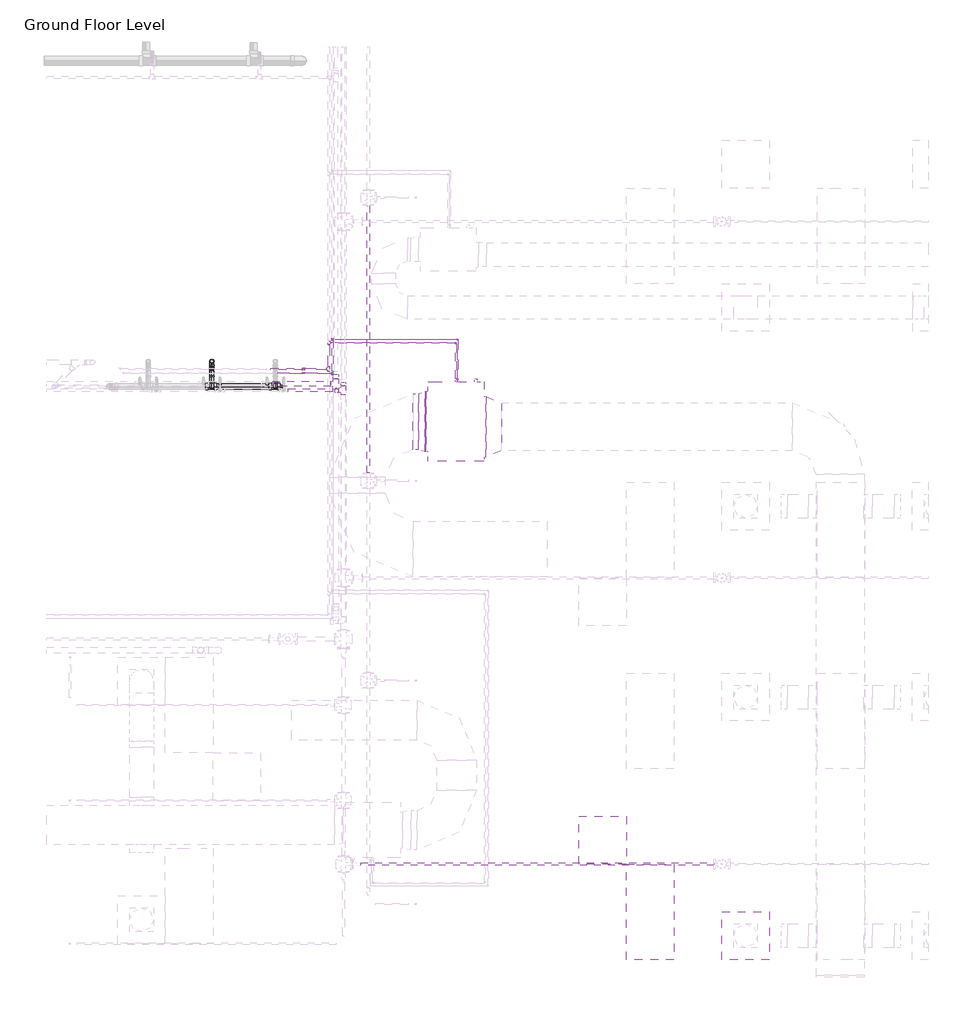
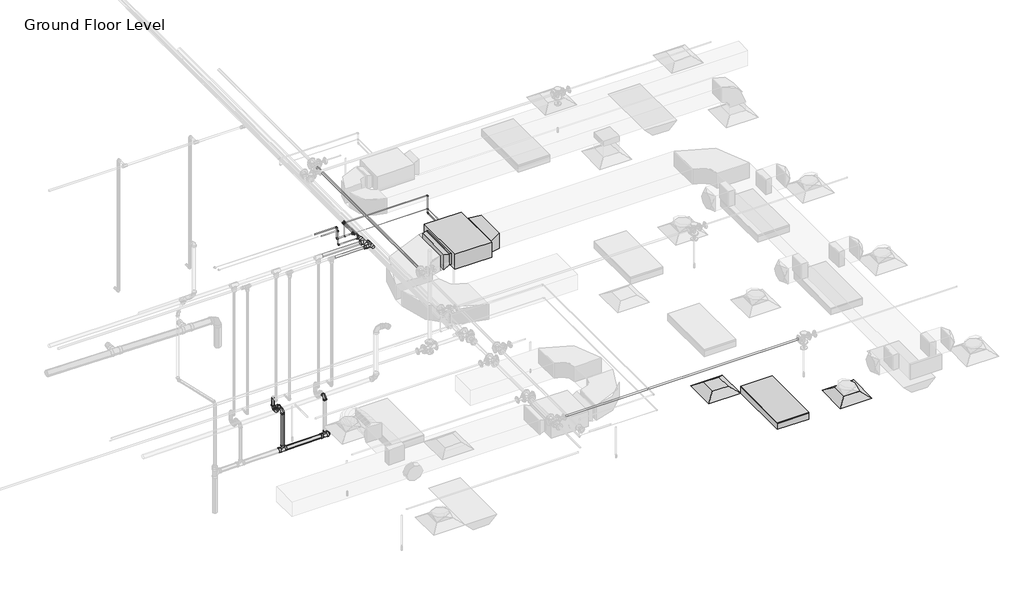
# One storey, part 17 of 66: 32 pipe fittings, 25 pipe segments, 2 air terminals, 2 duct fittings, 2 duct segments, 1 light fixture, 1 proxy.
"""IFC4 building model written with IfcOpenShell, lengths in millimetres."""

from ifc_helpers import new_model, si_unit, point, frame, frame_2d, origin, place, context, project, spatial, polyline, circle_curve, trimmed, segment, composite_curve, outline, extrude, transform, mapped, element, save
from ifc_brep_helpers import plane_surface, cylinder_surface, advanced_brep
from components import m_return_diffuser_600_x_600_face_300_x_300_connection_ff221211, fcu_daikin_iu_7e1df382, m_rectangular_transition_angle_45_degree_93a96896, m_rectangular_transition_angle_45_degree_f6cc18ae, m_troffer_light_parabolic_rectangular1_0600x1200mm_4_lamp_86473d4a, m_bend_pvc_sch_40_dwv_standard_1e7bdcc1, m_bend_pvc_sch_40_dwv_standard_776e50c4, m_bend_pvc_sch_40_dwv_standard_aab78995, m_elbow_generic_standard_a088f956, m_elbow_generic_standard_2a704253, m_elbow_generic_standard_73005802, m_elbow_generic_standard_bb5ffebe, m_plug_pvc_sch_40_dwv_standard_af737ab4, m_tee_generic_standard_5b2ed4d4, m_tee_generic_standard_cdc1cff5, m_tee_generic_standard_5078887e, m_tee_generic_standard_bbfc025c, m_tee_reducing_sanitary_pvc_sch_40_dwv_standard_21d2848c, m_transition_generic_standard_6dc712c0, m_transition_generic_standard_2351da66, m_transition_generic_standard_44e35838, m_transition_generic_standard_22c7c9f4, m_transition_generic_standard_2d362458, standard_cd25fed3, standard_5079833c, standard_bbae78af, standard_a995ec02, standard_77f9104c

model = new_model("IFC4")

# Units and contexts
model_context = context("Model", 3, world=origin())
ifc_project = project(units=[si_unit("LENGTHUNIT", "METRE", prefix="MILLI")], contexts=[model_context])

# Site, building, storey
site = spatial("IfcSite", under=ifc_project)
building = spatial("IfcBuilding", under=site)
storey = spatial("IfcBuildingStorey", under=building, Name="Ground Floor Level", Elevation=900.0)

# Air terminals
placement = place(None, origin())
m_return_diffuser_600_x_600_face_300_x_300_connection_shape = m_return_diffuser_600_x_600_face_300_x_300_connection_ff221211(model_context)
element("IfcAirTerminal", 1, ObjectType="M_Return Diffuser : 600 x 600 Face 300 x 300 Connection", at=placement, inside=storey, context=model_context, shape_type="MappedRepresentation", body=[
    mapped(m_return_diffuser_600_x_600_face_300_x_300_connection_shape, transform((8943.0482736, -38564.7846466, 3650.0), x_axis=(1.0, 0.0, 0.0), y_axis=(0.0, 1.0, 0.0), z_axis=(0.0, 0.0, 1.0))),
])
element("IfcAirTerminal", 2, ObjectType="M_Supply Diffuser : 600 x 600 Face 300 x 300 Connection", at=placement, inside=storey, context=model_context, shape_type="MappedRepresentation", body=[
    mapped(m_return_diffuser_600_x_600_face_300_x_300_connection_shape, transform((10742.7672395, -39764.7846466, 3650.0), x_axis=(1.0, 0.0, 0.0), y_axis=(0.0, 1.0, 0.0), z_axis=(0.0, 0.0, 1.0))),
])

# Proxy
fcu_daikin_iu_shape = fcu_daikin_iu_7e1df382(model_context)
element("IfcBuildingElementProxy", 3, Name="FCU-DAIKIN IU : 7.2kW, 230V/50Hz/1Ph", ObjectType="FCU-DAIKIN IU : 7.2kW, 230V/50Hz/1Ph", at=placement, inside=storey, context=model_context, shape_type="MappedRepresentation", body=[
    mapped(fcu_daikin_iu_shape, transform((7098.4644074, -33301.2726336, 3934.0875), x_axis=(0.0, 1.0, 0.0), y_axis=(-1.0, 0.0, 0.0), z_axis=(0.0, 0.0, 1.0))),
])

# Duct fittings
m_rectangular_transition_angle_45_degree_shape = m_rectangular_transition_angle_45_degree_93a96896(model_context)
element("IfcDuctFitting", 4, ObjectType="M_Rectangular Transition - Angle : 45 Degree", at=placement, inside=storey, context=model_context, shape_type="MappedRepresentation", body=[
    mapped(m_rectangular_transition_angle_45_degree_shape, transform((7473.8644074, -33364.7726336, 4100.0), x_axis=(1.0, 0.0, 0.0), y_axis=(0.0, 1.0, 0.0), z_axis=(0.0, 0.0, 1.0))),
])
m_rectangular_transition_angle_45_degree_2_shape = m_rectangular_transition_angle_45_degree_f6cc18ae(model_context)
element("IfcDuctFitting", 5, ObjectType="M_Rectangular Transition - Angle : 45 Degree", at=placement, inside=storey, context=model_context, shape_type="MappedRepresentation", body=[
    mapped(m_rectangular_transition_angle_45_degree_2_shape, transform((6711.4162578, -33301.2726336, 4075.2908943), x_axis=(-0.9999999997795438, 0.0, 2.0997916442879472e-05), y_axis=(0.0, -1.0, 0.0), z_axis=(2.0997916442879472e-05, 0.0, 0.9999999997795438))),
])

# Duct segments
element("IfcDuctSegment", 6, ObjectType="Radius Elbows / Taps", at=placement, inside=storey, context=model_context, shape_type="SweptSolid", body=[
    extrude(outline(polyline([(0.0, -761.875), (0.0, 0.0), (11.6481501, 0.0), (11.6481501, -761.875), (0.0, -761.875)])), frame((6711.3850343, -32920.3351336, 3968.1408988), z_axis=(0.00029140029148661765, 0.0, 0.9999999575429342), x_axis=(0.9999999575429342, 0.0, -0.00029140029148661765)), (0.0, 0.0, 1.0), 214.3),
])
element("IfcDuctSegment", 7, ObjectType="Radius Elbows / Taps", at=placement, inside=storey, context=model_context, shape_type="SweptSolid", body=[
    extrude(outline(polyline([(6557.7672394, -33651.2726336), (6557.7672394, -32951.2726336), (6625.7187526, -32951.2726336), (6625.7187526, -33651.2726336), (6557.7672394, -33651.2726336)])), frame((0.0, 0.0, 3882.4375), z_axis=(0.0, 0.0, 1.0), x_axis=(1.0, 0.0, 0.0)), (0.0, 0.0, 1.0), 300.0),
])

# Light fixture
m_troffer_light_parabolic_rectangular1_0600x1200mm_4_lamp_shape = m_troffer_light_parabolic_rectangular1_0600x1200mm_4_lamp_86473d4a(model_context)
element("IfcLightFixture", 8, ObjectType="M_Troffer Light - Parabolic Rectangular1 : 0600x1200mm(4 Lamp) - 277V 2", at=placement, inside=storey, context=model_context, shape_type="MappedRepresentation", body=[
    mapped(m_troffer_light_parabolic_rectangular1_0600x1200mm_4_lamp_shape, transform((9483.5823415, -39446.0811451, 3650.0), x_axis=(0.0, 1.0, 0.0), y_axis=(-1.0, 0.0, 0.0), z_axis=(0.0, 0.0, 1.0))),
])

# Pipe fittings
m_bend_pvc_sch_40_dwv_standard_shape = m_bend_pvc_sch_40_dwv_standard_1e7bdcc1(model_context)
element("IfcPipeFitting", 9, ObjectType="M_Bend - PVC - Sch 40 - DWV : Standard", at=placement, inside=storey, context=model_context, shape_type="MappedRepresentation", body=[
    mapped(m_bend_pvc_sch_40_dwv_standard_shape, transform((4026.7846789, -32541.2164355, 1350.0), x_axis=(0.0, 0.0, -1.0), y_axis=(0.0, -1.0, 0.0), z_axis=(-1.0, 0.0, 0.0))),
])
element("IfcPipeFitting", 10, ObjectType="M_Bend - PVC - Sch 40 - DWV : Standard", at=placement, inside=storey, context=model_context, shape_type="MappedRepresentation", body=[
    mapped(m_bend_pvc_sch_40_dwv_standard_shape, transform((4026.7846789, -32858.7119065, 1488.4250453), x_axis=(0.0, -0.9999500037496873, -0.009999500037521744), y_axis=(0.0, 0.009999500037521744, -0.9999500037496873), z_axis=(1.0, 0.0, 0.0))),
])
m_bend_pvc_sch_40_dwv_standard_2_shape = m_bend_pvc_sch_40_dwv_standard_776e50c4(model_context)
element("IfcPipeFitting", 11, ObjectType="M_Bend - PVC - Sch 40 - DWV : Standard", at=placement, inside=storey, context=model_context, shape_type="MappedRepresentation", body=[
    mapped(m_bend_pvc_sch_40_dwv_standard_2_shape, transform((4026.7846789, -32676.2164355, 1348.45), x_axis=(0.0, -0.9999500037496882, -0.009999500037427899), y_axis=(0.0, -0.009999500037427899, 0.9999500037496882), z_axis=(-1.0, 0.0, 0.0))),
])
element("IfcPipeFitting", 12, ObjectType="M_Bend - PVC - Sch 40 - DWV : Standard", at=placement, inside=storey, context=model_context, shape_type="MappedRepresentation", body=[
    mapped(m_bend_pvc_sch_40_dwv_standard_2_shape, transform((4026.7846789, -32676.2164355, 1490.0), x_axis=(0.0, 0.0, 1.0), y_axis=(0.0, -1.0, 0.0), z_axis=(1.0, 0.0, 0.0))),
])
m_bend_pvc_sch_40_dwv_standard_3_shape = m_bend_pvc_sch_40_dwv_standard_aab78995(model_context)
element("IfcPipeFitting", 13, ObjectType="M_Bend - PVC - Sch 40 - DWV : Standard", at=placement, inside=storey, context=model_context, shape_type="MappedRepresentation", body=[
    mapped(m_bend_pvc_sch_40_dwv_standard_3_shape, transform((4826.7846789, -32858.7119065, 1488.4250453), x_axis=(0.0, -0.999968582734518, -0.007926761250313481), y_axis=(0.0, 0.007926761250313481, -0.999968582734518), z_axis=(1.0, 0.0, 0.0))),
])
m_elbow_generic_standard_shape = m_elbow_generic_standard_a088f956(model_context)
element("IfcPipeFitting", 14, ObjectType="M_Elbow - Generic : Standard", at=placement, inside=storey, context=model_context, shape_type="MappedRepresentation", body=[
    mapped(m_elbow_generic_standard_shape, transform((7098.4644074, -32307.4513653, 4390.0), x_axis=(1.0, 0.0, 0.0), y_axis=(0.0, 0.0, -1.0), z_axis=(0.0, 1.0, 0.0))),
])
element("IfcPipeFitting", 15, ObjectType="M_Elbow - Generic : Standard", at=placement, inside=storey, context=model_context, shape_type="MappedRepresentation", body=[
    mapped(m_elbow_generic_standard_shape, transform((7098.4644074, -32307.4513653, 4034.0875), x_axis=(0.0, 0.0, -1.0), y_axis=(0.0, -1.0, 0.0), z_axis=(-1.0, 0.0, 0.0))),
])
m_elbow_generic_standard_2_shape = m_elbow_generic_standard_2a704253(model_context)
element("IfcPipeFitting", 16, ObjectType="M_Elbow - Generic : Standard", at=placement, inside=storey, context=model_context, shape_type="MappedRepresentation", body=[
    mapped(m_elbow_generic_standard_2_shape, transform((7123.4644074, -32264.9316535, 4084.8875), x_axis=(0.0, 1.0, 0.0), y_axis=(-0.9999999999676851, 0.0, 8.039269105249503e-06), z_axis=(8.039269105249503e-06, 0.0, 0.9999999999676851))),
])
element("IfcPipeFitting", 17, ObjectType="M_Elbow - Generic : Standard", at=placement, inside=storey, context=model_context, shape_type="MappedRepresentation", body=[
    mapped(m_elbow_generic_standard_2_shape, transform((5543.9904113, -32264.9316538, 4084.9001978), x_axis=(0.0, 0.0, -1.0), y_axis=(1.0, 0.0, 0.0), z_axis=(0.0, -1.0, 0.0))),
])
m_elbow_generic_standard_3_shape = m_elbow_generic_standard_73005802(model_context)
element("IfcPipeFitting", 18, ObjectType="M_Elbow - Generic : Standard", at=placement, inside=storey, context=model_context, shape_type="MappedRepresentation", body=[
    mapped(m_elbow_generic_standard_3_shape, transform((5183.4438829, -32638.716218, 4390.0), x_axis=(-1.0, 0.0, 0.0), y_axis=(0.0, 0.0, 1.0), z_axis=(0.0, 1.0, 0.0))),
])
element("IfcPipeFitting", 19, ObjectType="M_Elbow - Generic : Standard", at=placement, inside=storey, context=model_context, shape_type="MappedRepresentation", body=[
    mapped(m_elbow_generic_standard_3_shape, transform((5183.4438829, -32638.716218, 4621.4908765), x_axis=(0.0, 0.0, 1.0), y_axis=(-1.0, 0.0, 0.0), z_axis=(0.0, -1.0, 0.0))),
])
m_elbow_generic_standard_4_shape = m_elbow_generic_standard_bb5ffebe(model_context)
element("IfcPipeFitting", 20, ObjectType="M_Elbow - Generic : Standard", at=placement, inside=storey, context=model_context, shape_type="MappedRepresentation", body=[
    mapped(m_elbow_generic_standard_4_shape, transform((5176.1749541, -32691.5527522, 4591.0863665), x_axis=(0.0, 0.0, 1.0), y_axis=(-1.0, 0.0, 0.0), z_axis=(0.0, -1.0, 0.0))),
])
element("IfcPipeFitting", 21, ObjectType="M_Elbow - Generic : Standard", at=placement, inside=storey, context=model_context, shape_type="MappedRepresentation", body=[
    mapped(m_elbow_generic_standard_4_shape, transform((5543.9904113, -32691.5527522, 4300.0), x_axis=(0.0, 0.0, -1.0), y_axis=(-1.0, 0.0, 0.0), z_axis=(0.0, 1.0, 0.0))),
])
element("IfcPipeFitting", 22, ObjectType="M_Elbow - Generic : Standard", at=placement, inside=storey, context=model_context, shape_type="MappedRepresentation", body=[
    mapped(m_elbow_generic_standard_4_shape, transform((5176.1749541, -32691.5527522, 4300.0), x_axis=(0.0, 0.0, -1.0), y_axis=(1.0, 0.0, 0.0), z_axis=(0.0, -1.0, 0.0))),
])
m_plug_pvc_sch_40_dwv_standard_shape = m_plug_pvc_sch_40_dwv_standard_af737ab4(model_context)
element("IfcPipeFitting", 23, ObjectType="M_Plug - PVC - Sch 40 - DWV : Standard", at=placement, inside=storey, context=model_context, shape_type="MappedRepresentation", body=[
    mapped(m_plug_pvc_sch_40_dwv_standard_shape, transform((4886.2674481, -32858.7119065, 723.0545203), x_axis=(0.9999500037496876, 0.0, 0.009999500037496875), y_axis=(0.009999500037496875, 0.0, -0.9999500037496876), z_axis=(0.0, 1.0, 0.0))),
])
m_tee_generic_standard_shape = m_tee_generic_standard_5b2ed4d4(model_context)
element("IfcPipeFitting", 24, ObjectType="M_Tee - Generic : Standard", at=placement, inside=storey, context=model_context, shape_type="MappedRepresentation", body=[
    mapped(m_tee_generic_standard_shape, transform((5543.9904113, -32264.9316538, 4377.5), x_axis=(0.0, -1.0, 0.0), y_axis=(0.0, 0.0, 1.0), z_axis=(-1.0, 0.0, 0.0))),
])
m_tee_generic_standard_2_shape = m_tee_generic_standard_cdc1cff5(model_context)
element("IfcPipeFitting", 25, ObjectType="M_Tee - Generic : Standard", at=placement, inside=storey, context=model_context, shape_type="MappedRepresentation", body=[
    mapped(m_tee_generic_standard_2_shape, transform((5543.9904113, -32691.5527522, 4377.5), x_axis=(0.0, -1.0, 0.0), y_axis=(0.0, 0.0, 1.0), z_axis=(-1.0, 0.0, 0.0))),
])
m_tee_generic_standard_3_shape = m_tee_generic_standard_5078887e(model_context)
element("IfcPipeFitting", 26, ObjectType="M_Tee - Generic : Standard", at=placement, inside=storey, context=model_context, shape_type="MappedRepresentation", body=[
    mapped(m_tee_generic_standard_3_shape, transform((5497.8951827, -32307.4513653, 4390.0), x_axis=(0.0, -1.0, 0.0), y_axis=(-1.0, 0.0, 0.0), z_axis=(0.0, 0.0, -1.0))),
])
m_tee_generic_standard_4_shape = m_tee_generic_standard_bbfc025c(model_context)
element("IfcPipeFitting", 27, ObjectType="M_Tee - Generic : Standard", at=placement, inside=storey, context=model_context, shape_type="MappedRepresentation", body=[
    mapped(m_tee_generic_standard_4_shape, transform((5497.8951827, -32638.716218, 4390.0), x_axis=(0.0, -1.0, 0.0), y_axis=(1.0, 0.0, 0.0), z_axis=(0.0, 0.0, 1.0))),
])
m_tee_reducing_sanitary_pvc_sch_40_dwv_standard_shape = m_tee_reducing_sanitary_pvc_sch_40_dwv_standard_21d2848c(model_context)
element("IfcPipeFitting", 28, ObjectType="M_Tee Reducing Sanitary - PVC - Sch 40 - DWV : Standard", at=placement, inside=storey, context=model_context, shape_type="MappedRepresentation", body=[
    mapped(m_tee_reducing_sanitary_pvc_sch_40_dwv_standard_shape, transform((4826.7846789, -32858.7119065, 722.4596926), x_axis=(0.9999500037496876, 0.0, 0.009999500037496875), y_axis=(0.009999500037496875, 0.0, -0.9999500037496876), z_axis=(0.0, 1.0, 0.0))),
])
element("IfcPipeFitting", 29, ObjectType="M_Tee Reducing Sanitary - PVC - Sch 40 - DWV : Standard", at=placement, inside=storey, context=model_context, shape_type="MappedRepresentation", body=[
    mapped(m_tee_reducing_sanitary_pvc_sch_40_dwv_standard_shape, transform((4026.7846789, -32858.7119065, 714.4596926), x_axis=(0.9999500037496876, 0.0, 0.009999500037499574), y_axis=(0.009999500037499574, 0.0, -0.9999500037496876), z_axis=(0.0, 1.0, 0.0))),
])
m_transition_generic_standard_shape = m_transition_generic_standard_6dc712c0(model_context)
element("IfcPipeFitting", 30, ObjectType="M_Transition - Generic : Standard", at=placement, inside=storey, context=model_context, shape_type="MappedRepresentation", body=[
    mapped(m_transition_generic_standard_shape, transform((5543.9904113, -32669.3277522, 4377.5), x_axis=(0.0, 1.0, 0.0), y_axis=(-1.0, 0.0, 0.0), z_axis=(0.0, 0.0, 1.0))),
])
element("IfcPipeFitting", 31, ObjectType="M_Transition - Generic : Standard", at=placement, inside=storey, context=model_context, shape_type="MappedRepresentation", body=[
    mapped(m_transition_generic_standard_shape, transform((5543.9904113, -32713.7777522, 4377.5), x_axis=(0.0, -1.0, 0.0), y_axis=(1.0, 0.0, 0.0), z_axis=(0.0, 0.0, 1.0))),
])
m_transition_generic_standard_2_shape = m_transition_generic_standard_2351da66(model_context)
element("IfcPipeFitting", 32, ObjectType="M_Transition - Generic : Standard", at=placement, inside=storey, context=model_context, shape_type="MappedRepresentation", body=[
    mapped(m_transition_generic_standard_2_shape, transform((5497.8951827, -32613.316218, 4390.0), x_axis=(0.0, 1.0, 0.0), y_axis=(-1.0, 0.0, 0.0), z_axis=(0.0, 0.0, 1.0))),
])
m_transition_generic_standard_3_shape = m_transition_generic_standard_44e35838(model_context)
element("IfcPipeFitting", 33, ObjectType="M_Transition - Generic : Standard", at=placement, inside=storey, context=model_context, shape_type="MappedRepresentation", body=[
    mapped(m_transition_generic_standard_3_shape, transform((5521.7076827, -32307.4513653, 4390.0), x_axis=(1.0, 0.0, 0.0), y_axis=(0.0, 1.0, 0.0), z_axis=(0.0, 0.0, 1.0))),
])
m_transition_generic_standard_4_shape = m_transition_generic_standard_22c7c9f4(model_context)
element("IfcPipeFitting", 34, ObjectType="M_Transition - Generic : Standard", at=placement, inside=storey, context=model_context, shape_type="MappedRepresentation", body=[
    mapped(m_transition_generic_standard_4_shape, transform((5497.8951827, -32664.116218, 4390.0), x_axis=(0.0, -1.0, 0.0), y_axis=(1.0, 0.0, 0.0), z_axis=(0.0, 0.0, 1.0))),
])
m_transition_generic_standard_5_shape = m_transition_generic_standard_2d362458(model_context)
element("IfcPipeFitting", 35, ObjectType="M_Transition - Generic : Standard", at=placement, inside=storey, context=model_context, shape_type="MappedRepresentation", body=[
    mapped(m_transition_generic_standard_5_shape, transform((5543.9904113, -32264.9316538, 4356.8625), x_axis=(0.0, 0.0, -1.0), y_axis=(1.0, 0.0, 0.0), z_axis=(0.0, -1.0, 0.0))),
])
standard_shape = standard_cd25fed3(model_context)
element("IfcPipeFitting", 36, ObjectType="M_Tee - CPVC - Sch 40 : Standard", at=placement, inside=storey, context=model_context, shape_type="MappedRepresentation", body=[
    mapped(standard_shape, transform((5589.646628, -32824.9853451, 4300.0), x_axis=(0.0, 1.0, 0.0), y_axis=(1.0, 0.0, 0.0), z_axis=(0.0, 0.0, -1.0))),
])
standard_2_shape = standard_5079833c(model_context)
element("IfcPipeFitting", 37, ObjectType="M_Coupling Reducing - CPVC - Sch 40 : Standard", at=placement, inside=storey, context=model_context, shape_type="MappedRepresentation", body=[
    mapped(standard_2_shape, transform((5589.646628, -32758.3103451, 4300.0), x_axis=(0.0, 1.0, 0.0), y_axis=(-1.0, 0.0, 0.0), z_axis=(0.0, 0.0, 1.0))),
])
standard_3_shape = standard_bbae78af(model_context)
element("IfcPipeFitting", 38, ObjectType="M_Tee - CPVC - Sch 40 : Standard", at=placement, inside=storey, context=model_context, shape_type="MappedRepresentation", body=[
    mapped(standard_3_shape, transform((5680.5575802, -32905.870708, 4250.0), x_axis=(0.0, -1.0, 0.0), y_axis=(1.0, 0.0, 0.0), z_axis=(0.0, 0.0, 1.0))),
])
standard_4_shape = standard_a995ec02(model_context)
element("IfcPipeFitting", 39, ObjectType="M_Coupling Reducing - CPVC - Sch 40 : Standard", at=placement, inside=storey, context=model_context, shape_type="MappedRepresentation", body=[
    mapped(standard_4_shape, transform((5621.8073802, -32905.870708, 4250.0), x_axis=(-1.0, 0.0, 0.0), y_axis=(0.0, -1.0, 0.0), z_axis=(0.0, 0.0, 1.0))),
])
standard_5_shape = standard_77f9104c(model_context)
element("IfcPipeFitting", 40, ObjectType="M_Coupling Reducing - CPVC - Sch 40 : Standard", at=placement, inside=storey, context=model_context, shape_type="MappedRepresentation", body=[
    mapped(standard_5_shape, transform((5680.5575802, -32847.120508, 4250.0), x_axis=(0.0, 1.0, 0.0), y_axis=(-1.0, 0.0, 0.0), z_axis=(0.0, 0.0, 1.0))),
])

# Pipe segments
element("IfcPipeSegment", 41, ObjectType="CPVC", at=placement, inside=storey, context=model_context, shape_type="SweptSolid", body=[
    extrude(outline(composite_curve([segment(trimmed(circle_curve(frame_2d((-32824.9853451, 4300.0)), 30.1625), [point((-32855.1478451, 4300.0))], [point((-32824.9853451, 4330.1625))], False, "CARTESIAN"), True, "CONTINUOUS"), segment(trimmed(circle_curve(frame_2d((-32824.9853451, 4300.0)), 30.1625), [point((-32824.9853451, 4330.1625))], [point((-32794.8228451, 4300.0))], False, "CARTESIAN"), True, "CONTINUOUS"), segment(trimmed(circle_curve(frame_2d((-32824.9853451, 4300.0)), 30.1625), [point((-32794.8228451, 4300.0))], [point((-32824.9853451, 4269.8375))], False, "CARTESIAN"), True, "CONTINUOUS"), segment(trimmed(circle_curve(frame_2d((-32824.9853451, 4300.0)), 30.1625), [point((-32824.9853451, 4269.8375))], [point((-32855.1478451, 4300.0))], False, "CARTESIAN"), True, "CONTINUOUS")], self_intersect=False)), frame((4789.1447583, 0.0, 0.0), z_axis=(1.0, 0.0, 0.0), x_axis=(0.0, 1.0, 0.0)), (0.0, 0.0, 1.0), 733.8268697),
])
element("IfcPipeSegment", 42, ObjectType="CPVC", at=placement, inside=storey, context=model_context, shape_type="SweptSolid", body=[
    extrude(outline(composite_curve([segment(trimmed(circle_curve(frame_2d((-32905.870708, 4250.0)), 21.082), [point((-32884.788708, 4250.0))], [point((-32905.870708, 4228.918))], False, "CARTESIAN"), True, "CONTINUOUS"), segment(trimmed(circle_curve(frame_2d((-32905.870708, 4250.0)), 21.082), [point((-32905.870708, 4228.918))], [point((-32926.952708, 4250.0))], False, "CARTESIAN"), True, "CONTINUOUS"), segment(trimmed(circle_curve(frame_2d((-32905.870708, 4250.0)), 21.082), [point((-32926.952708, 4250.0))], [point((-32905.870708, 4271.082))], False, "CARTESIAN"), True, "CONTINUOUS"), segment(trimmed(circle_curve(frame_2d((-32905.870708, 4250.0)), 21.082), [point((-32905.870708, 4271.082))], [point((-32884.788708, 4250.0))], False, "CARTESIAN"), True, "CONTINUOUS")], self_intersect=False)), frame((4985.0745995, 0.0, 0.0), z_axis=(1.0, 0.0, 0.0), x_axis=(0.0, 1.0, 0.0)), (0.0, 0.0, 1.0), 558.9940307),
])
element("IfcPipeSegment", 43, ObjectType="Copper", at=placement, inside=storey, context=model_context, shape_type="SweptSolid", body=[
    extrude(outline(composite_curve([segment(trimmed(circle_curve(frame_2d((-32638.716218, 4390.0)), 11.5), [point((-32650.216218, 4390.0))], [point((-32638.716218, 4401.5))], False, "CARTESIAN"), True, "CONTINUOUS"), segment(trimmed(circle_curve(frame_2d((-32638.716218, 4390.0)), 11.5), [point((-32638.716218, 4401.5))], [point((-32627.216218, 4390.0))], False, "CARTESIAN"), True, "CONTINUOUS"), segment(trimmed(circle_curve(frame_2d((-32638.716218, 4390.0)), 11.5), [point((-32627.216218, 4390.0))], [point((-32638.716218, 4378.5))], False, "CARTESIAN"), True, "CONTINUOUS"), segment(trimmed(circle_curve(frame_2d((-32638.716218, 4390.0)), 11.5), [point((-32638.716218, 4378.5))], [point((-32650.216218, 4390.0))], False, "CARTESIAN"), True, "CONTINUOUS")], self_intersect=False)), frame((5202.4938829, 0.0, 0.0), z_axis=(1.0, 0.0, 0.0), x_axis=(0.0, 1.0, 0.0)), (0.0, 0.0, 1.0), 270.0012998),
])
element("IfcPipeSegment", 44, ObjectType="Copper", at=placement, inside=storey, context=model_context, shape_type="SweptSolid", body=[
    extrude(outline(composite_curve([segment(trimmed(circle_curve(frame_2d((5176.1749541, -32691.5527522)), 8.1), [point((5168.0749541, -32691.5527522))], [point((5176.1749541, -32683.4527522))], False, "CARTESIAN"), True, "CONTINUOUS"), segment(trimmed(circle_curve(frame_2d((5176.1749541, -32691.5527522)), 8.1), [point((5176.1749541, -32683.4527522))], [point((5184.2749541, -32691.5527522))], False, "CARTESIAN"), True, "CONTINUOUS"), segment(trimmed(circle_curve(frame_2d((5176.1749541, -32691.5527522)), 8.1), [point((5184.2749541, -32691.5527522))], [point((5176.1749541, -32699.6527522))], False, "CARTESIAN"), True, "CONTINUOUS"), segment(trimmed(circle_curve(frame_2d((5176.1749541, -32691.5527522)), 8.1), [point((5176.1749541, -32699.6527522))], [point((5168.0749541, -32691.5527522))], False, "CARTESIAN"), True, "CONTINUOUS")], self_intersect=False)), frame((0.0, 0.0, 4315.875), z_axis=(0.0, 0.0, 1.0), x_axis=(1.0, 0.0, 0.0)), (0.0, 0.0, 1.0), 259.3363665),
])
element("IfcPipeSegment", 45, ObjectType="Copper", at=placement, inside=storey, context=model_context, shape_type="SweptSolid", body=[
    extrude(outline(composite_curve([segment(trimmed(circle_curve(frame_2d((5183.4438829, -32638.716218)), 11.5), [point((5171.9438829, -32638.716218))], [point((5183.4438829, -32627.216218))], False, "CARTESIAN"), True, "CONTINUOUS"), segment(trimmed(circle_curve(frame_2d((5183.4438829, -32638.716218)), 11.5), [point((5183.4438829, -32627.216218))], [point((5194.9438829, -32638.716218))], False, "CARTESIAN"), True, "CONTINUOUS"), segment(trimmed(circle_curve(frame_2d((5183.4438829, -32638.716218)), 11.5), [point((5194.9438829, -32638.716218))], [point((5183.4438829, -32650.216218))], False, "CARTESIAN"), True, "CONTINUOUS"), segment(trimmed(circle_curve(frame_2d((5183.4438829, -32638.716218)), 11.5), [point((5183.4438829, -32650.216218))], [point((5171.9438829, -32638.716218))], False, "CARTESIAN"), True, "CONTINUOUS")], self_intersect=False)), frame((0.0, 0.0, 4409.05), z_axis=(0.0, 0.0, 1.0), x_axis=(1.0, 0.0, 0.0)), (0.0, 0.0, 1.0), 193.3908765),
])
element("IfcPipeSegment", 46, ObjectType="Copper", at=placement, inside=storey, context=model_context, shape_type="SweptSolid", body=[
    extrude(outline(composite_curve([segment(trimmed(circle_curve(frame_2d((-32307.4513653, 4390.0)), 6.5), [point((-32313.9513653, 4390.0))], [point((-32307.4513653, 4396.5))], False, "CARTESIAN"), True, "CONTINUOUS"), segment(trimmed(circle_curve(frame_2d((-32307.4513653, 4390.0)), 6.5), [point((-32307.4513653, 4396.5))], [point((-32300.9513653, 4390.0))], False, "CARTESIAN"), True, "CONTINUOUS"), segment(trimmed(circle_curve(frame_2d((-32307.4513653, 4390.0)), 6.5), [point((-32300.9513653, 4390.0))], [point((-32307.4513653, 4383.5))], False, "CARTESIAN"), True, "CONTINUOUS"), segment(trimmed(circle_curve(frame_2d((-32307.4513653, 4390.0)), 6.5), [point((-32307.4513653, 4383.5))], [point((-32313.9513653, 4390.0))], False, "CARTESIAN"), True, "CONTINUOUS")], self_intersect=False)), frame((5527.2639327, 0.0, 0.0), z_axis=(1.0, 0.0, 0.0), x_axis=(0.0, 1.0, 0.0)), (0.0, 0.0, 1.0), 1556.9129748),
])
element("IfcPipeSegment", 47, ObjectType="Copper", at=placement, inside=storey, context=model_context, shape_type="SweptSolid", body=[
    extrude(outline(composite_curve([segment(trimmed(circle_curve(frame_2d((4390.0, 5497.8951827)), 9.75), [point((4390.0, 5507.6451827))], [point((4399.75, 5497.8951827))], False, "CARTESIAN"), True, "CONTINUOUS"), segment(trimmed(circle_curve(frame_2d((4390.0, 5497.8951827)), 9.75), [point((4399.75, 5497.8951827))], [point((4390.0, 5488.1451827))], False, "CARTESIAN"), True, "CONTINUOUS"), segment(trimmed(circle_curve(frame_2d((4390.0, 5497.8951827)), 9.75), [point((4390.0, 5488.1451827))], [point((4380.25, 5497.8951827))], False, "CARTESIAN"), True, "CONTINUOUS"), segment(trimmed(circle_curve(frame_2d((4390.0, 5497.8951827)), 9.75), [point((4380.25, 5497.8951827))], [point((4390.0, 5507.6451827))], False, "CARTESIAN"), True, "CONTINUOUS")], self_intersect=False)), frame((0.0, -32606.966218, 0.0), z_axis=(0.0, 1.0, 0.0), x_axis=(0.0, 0.0, 1.0)), (0.0, 0.0, 1.0), 275.7023527),
])
element("IfcPipeSegment", 48, ObjectType="Copper", at=placement, inside=storey, context=model_context, shape_type="SweptSolid", body=[
    extrude(outline(composite_curve([segment(trimmed(circle_curve(frame_2d((4034.0875, 7098.4644074)), 6.5), [point((4034.0875, 7091.9644074))], [point((4027.5875, 7098.4644074))], False, "CARTESIAN"), True, "CONTINUOUS"), segment(trimmed(circle_curve(frame_2d((4034.0875, 7098.4644074)), 6.5), [point((4027.5875, 7098.4644074))], [point((4034.0875, 7104.9644074))], False, "CARTESIAN"), True, "CONTINUOUS"), segment(trimmed(circle_curve(frame_2d((4034.0875, 7098.4644074)), 6.5), [point((4034.0875, 7104.9644074))], [point((4040.5875, 7098.4644074))], False, "CARTESIAN"), True, "CONTINUOUS"), segment(trimmed(circle_curve(frame_2d((4034.0875, 7098.4644074)), 6.5), [point((4040.5875, 7098.4644074))], [point((4034.0875, 7091.9644074))], False, "CARTESIAN"), True, "CONTINUOUS")], self_intersect=False)), frame((0.0, -32763.1726336, 0.0), z_axis=(0.0, 1.0, 0.0), x_axis=(0.0, 0.0, 1.0)), (0.0, 0.0, 1.0), 441.4337683),
])
element("IfcPipeSegment", 49, ObjectType="Copper", at=placement, inside=storey, context=model_context, shape_type="SweptSolid", body=[
    extrude(outline(composite_curve([segment(trimmed(circle_curve(frame_2d((4084.8875, 7123.4644074)), 3.35), [point((4084.8875, 7126.8144074))], [point((4088.2375, 7123.4644074))], False, "CARTESIAN"), True, "CONTINUOUS"), segment(trimmed(circle_curve(frame_2d((4084.8875, 7123.4644074)), 3.35), [point((4088.2375, 7123.4644074))], [point((4084.8875, 7120.1144074))], False, "CARTESIAN"), True, "CONTINUOUS"), segment(trimmed(circle_curve(frame_2d((4084.8875, 7123.4644074)), 3.35), [point((4084.8875, 7120.1144074))], [point((4081.5375, 7123.4644074))], False, "CARTESIAN"), True, "CONTINUOUS"), segment(trimmed(circle_curve(frame_2d((4084.8875, 7123.4644074)), 3.35), [point((4081.5375, 7123.4644074))], [point((4084.8875, 7126.8144074))], False, "CARTESIAN"), True, "CONTINUOUS")], self_intersect=False)), frame((0.0, -32763.1726336, 0.0), z_axis=(0.0, 1.0, 0.0), x_axis=(0.0, 0.0, 1.0)), (0.0, 0.0, 1.0), 487.1034801),
])
element("IfcPipeSegment", 50, ObjectType="Copper", at=placement, inside=storey, context=model_context, shape_type="SweptSolid", body=[
    extrude(outline(composite_curve([segment(trimmed(circle_curve(frame_2d((7098.4644074, -32307.4513653)), 6.5), [point((7104.9644074, -32307.4513653))], [point((7098.4644074, -32313.9513653))], False, "CARTESIAN"), True, "CONTINUOUS"), segment(trimmed(circle_curve(frame_2d((7098.4644074, -32307.4513653)), 6.5), [point((7098.4644074, -32313.9513653))], [point((7091.9644074, -32307.4513653))], False, "CARTESIAN"), True, "CONTINUOUS"), segment(trimmed(circle_curve(frame_2d((7098.4644074, -32307.4513653)), 6.5), [point((7091.9644074, -32307.4513653))], [point((7098.4644074, -32300.9513653))], False, "CARTESIAN"), True, "CONTINUOUS"), segment(trimmed(circle_curve(frame_2d((7098.4644074, -32307.4513653)), 6.5), [point((7098.4644074, -32300.9513653))], [point((7104.9644074, -32307.4513653))], False, "CARTESIAN"), True, "CONTINUOUS")], self_intersect=False)), frame((0.0, 0.0, 4048.375), z_axis=(0.0, 0.0, 1.0), x_axis=(1.0, 0.0, 0.0)), (0.0, 0.0, 1.0), 327.3375),
])
element("IfcPipeSegment", 51, ObjectType="Copper", at=placement, inside=storey, context=model_context, shape_type="SweptSolid", body=[
    extrude(outline(composite_curve([segment(trimmed(circle_curve(frame_2d((4377.5, 5543.9904113)), 6.5), [point((4377.5, 5550.4904113))], [point((4384.0, 5543.9904113))], False, "CARTESIAN"), True, "CONTINUOUS"), segment(trimmed(circle_curve(frame_2d((4377.5, 5543.9904113)), 6.5), [point((4384.0, 5543.9904113))], [point((4377.5, 5537.4904113))], False, "CARTESIAN"), True, "CONTINUOUS"), segment(trimmed(circle_curve(frame_2d((4377.5, 5543.9904113)), 6.5), [point((4377.5, 5537.4904113))], [point((4371.0, 5543.9904113))], False, "CARTESIAN"), True, "CONTINUOUS"), segment(trimmed(circle_curve(frame_2d((4377.5, 5543.9904113)), 6.5), [point((4371.0, 5543.9904113))], [point((4377.5, 5550.4904113))], False, "CARTESIAN"), True, "CONTINUOUS")], self_intersect=False)), frame((0.0, -32664.5652522, 0.0), z_axis=(0.0, 1.0, 0.0), x_axis=(0.0, 0.0, 1.0)), (0.0, 0.0, 1.0), 378.9960985),
])
element("IfcPipeSegment", 52, ObjectType="Copper", at=placement, inside=storey, context=model_context, shape_type="SweptSolid", body=[
    extrude(outline(composite_curve([segment(trimmed(circle_curve(frame_2d((-32638.716218, 4621.4908765)), 11.5), [point((-32650.216218, 4621.4908765))], [point((-32638.716218, 4632.9908765))], False, "CARTESIAN"), True, "CONTINUOUS"), segment(trimmed(circle_curve(frame_2d((-32638.716218, 4621.4908765)), 11.5), [point((-32638.716218, 4632.9908765))], [point((-32627.216218, 4621.4908765))], False, "CARTESIAN"), True, "CONTINUOUS"), segment(trimmed(circle_curve(frame_2d((-32638.716218, 4621.4908765)), 11.5), [point((-32627.216218, 4621.4908765))], [point((-32638.716218, 4609.9908765))], False, "CARTESIAN"), True, "CONTINUOUS"), segment(trimmed(circle_curve(frame_2d((-32638.716218, 4621.4908765)), 11.5), [point((-32638.716218, 4609.9908765))], [point((-32650.216218, 4621.4908765))], False, "CARTESIAN"), True, "CONTINUOUS")], self_intersect=False)), frame((4766.9205946, 0.0, 0.0), z_axis=(1.0, 0.0, 0.0), x_axis=(0.0, 1.0, 0.0)), (0.0, 0.0, 1.0), 397.4732883),
])
element("IfcPipeSegment", 53, ObjectType="Copper", at=placement, inside=storey, context=model_context, shape_type="SweptSolid", body=[
    extrude(outline(composite_curve([segment(trimmed(circle_curve(frame_2d((-32691.5527522, 4591.0863665)), 8.1), [point((-32683.4527522, 4591.0863665))], [point((-32691.5527522, 4582.9863665))], False, "CARTESIAN"), True, "CONTINUOUS"), segment(trimmed(circle_curve(frame_2d((-32691.5527522, 4591.0863665)), 8.1), [point((-32691.5527522, 4582.9863665))], [point((-32699.6527522, 4591.0863665))], False, "CARTESIAN"), True, "CONTINUOUS"), segment(trimmed(circle_curve(frame_2d((-32691.5527522, 4591.0863665)), 8.1), [point((-32699.6527522, 4591.0863665))], [point((-32691.5527522, 4599.1863665))], False, "CARTESIAN"), True, "CONTINUOUS"), segment(trimmed(circle_curve(frame_2d((-32691.5527522, 4591.0863665)), 8.1), [point((-32691.5527522, 4599.1863665))], [point((-32683.4527522, 4591.0863665))], False, "CARTESIAN"), True, "CONTINUOUS")], self_intersect=False)), frame((4856.6970185, 0.0, 0.0), z_axis=(1.0, 0.0, 0.0), x_axis=(0.0, 1.0, 0.0)), (0.0, 0.0, 1.0), 303.6029356),
])
element("IfcPipeSegment", 54, ObjectType="Copper", at=placement, inside=storey, context=model_context, shape_type="SweptSolid", body=[
    extrude(outline(composite_curve([segment(trimmed(circle_curve(frame_2d((5543.9904113, -32691.5527522)), 8.1), [point((5552.0904113, -32691.5527522))], [point((5543.9904113, -32699.6527522))], False, "CARTESIAN"), True, "CONTINUOUS"), segment(trimmed(circle_curve(frame_2d((5543.9904113, -32691.5527522)), 8.1), [point((5543.9904113, -32699.6527522))], [point((5535.8904113, -32691.5527522))], False, "CARTESIAN"), True, "CONTINUOUS"), segment(trimmed(circle_curve(frame_2d((5543.9904113, -32691.5527522)), 8.1), [point((5535.8904113, -32691.5527522))], [point((5543.9904113, -32683.4527522))], False, "CARTESIAN"), True, "CONTINUOUS"), segment(trimmed(circle_curve(frame_2d((5543.9904113, -32691.5527522)), 8.1), [point((5543.9904113, -32683.4527522))], [point((5552.0904113, -32691.5527522))], False, "CARTESIAN"), True, "CONTINUOUS")], self_intersect=False)), frame((0.0, 0.0, 4315.875), z_axis=(0.0, 0.0, 1.0), x_axis=(1.0, 0.0, 0.0)), (0.0, 0.0, 1.0), 39.4),
])
element("IfcPipeSegment", 55, ObjectType="Copper", at=placement, inside=storey, context=model_context, shape_type="SweptSolid", body=[
    extrude(outline(composite_curve([segment(trimmed(circle_curve(frame_2d((-32691.5527522, 4300.0)), 8.1), [point((-32683.4527522, 4300.0))], [point((-32691.5527522, 4291.9))], False, "CARTESIAN"), True, "CONTINUOUS"), segment(trimmed(circle_curve(frame_2d((-32691.5527522, 4300.0)), 8.1), [point((-32691.5527522, 4291.9))], [point((-32699.6527522, 4300.0))], False, "CARTESIAN"), True, "CONTINUOUS"), segment(trimmed(circle_curve(frame_2d((-32691.5527522, 4300.0)), 8.1), [point((-32699.6527522, 4300.0))], [point((-32691.5527522, 4308.1))], False, "CARTESIAN"), True, "CONTINUOUS"), segment(trimmed(circle_curve(frame_2d((-32691.5527522, 4300.0)), 8.1), [point((-32691.5527522, 4308.1))], [point((-32683.4527522, 4300.0))], False, "CARTESIAN"), True, "CONTINUOUS")], self_intersect=False)), frame((5192.0499541, 0.0, 0.0), z_axis=(1.0, 0.0, 0.0), x_axis=(0.0, 1.0, 0.0)), (0.0, 0.0, 1.0), 336.0654572),
])
element("IfcPipeSegment", 56, ObjectType="Copper", at=placement, inside=storey, context=model_context, shape_type="SweptSolid", body=[
    extrude(outline(composite_curve([segment(trimmed(circle_curve(frame_2d((5543.9904113, -32264.9316538)), 3.35), [point((5547.3404113, -32264.9316538))], [point((5543.9904113, -32268.2816538))], False, "CARTESIAN"), True, "CONTINUOUS"), segment(trimmed(circle_curve(frame_2d((5543.9904113, -32264.9316538)), 3.35), [point((5543.9904113, -32268.2816538))], [point((5540.6404113, -32264.9316538))], False, "CARTESIAN"), True, "CONTINUOUS"), segment(trimmed(circle_curve(frame_2d((5543.9904113, -32264.9316538)), 3.35), [point((5540.6404113, -32264.9316538))], [point((5543.9904113, -32261.5816538))], False, "CARTESIAN"), True, "CONTINUOUS"), segment(trimmed(circle_curve(frame_2d((5543.9904113, -32264.9316538)), 3.35), [point((5543.9904113, -32261.5816538))], [point((5547.3404113, -32264.9316538))], False, "CARTESIAN"), True, "CONTINUOUS")], self_intersect=False)), frame((0.0, 0.0, 4096.0376978), z_axis=(0.0, 0.0, 1.0), x_axis=(1.0, 0.0, 0.0)), (0.0, 0.0, 1.0), 256.8560522),
])
element("IfcPipeSegment", 57, ObjectType="Copper", at=placement, inside=storey, context=model_context, shape_type="AdvancedBrep", body=[
    advanced_brep(
    [(5555.1279113, -32268.2816538, 4084.9001978), (5555.1279385, -32264.9316538, 4088.2501978), (5555.1279113, -32261.5816538, 4084.9001978), (5555.1278842, -32264.9316538, 4081.5501978), (7112.3269074, -32268.2816535, 4084.8875895), (7112.3268803, -32264.9316535, 4081.5375895), (7112.3269074, -32261.5816535, 4084.8875895), (7112.3269346, -32264.9316535, 4088.2375895)],
    [
        (0, 1, circle_curve(frame((5555.1279113, -32264.9316538, 4084.9001978), z_axis=(-0.9999999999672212, 0.0, 8.096768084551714e-06), x_axis=(0.0, -1.0, 0.0)), 3.35)),
        (1, 2, circle_curve(frame((5555.1279113, -32264.9316538, 4084.9001978), z_axis=(-0.9999999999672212, 0.0, 8.096768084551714e-06), x_axis=(0.0, -1.0, 0.0)), 3.35)),
        (2, 3, circle_curve(frame((5555.1279113, -32264.9316538, 4084.9001978), z_axis=(-0.9999999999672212, 0.0, 8.096768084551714e-06), x_axis=(0.0, -1.0, 0.0)), 3.35)),
        (3, 0, circle_curve(frame((5555.1279113, -32264.9316538, 4084.9001978), z_axis=(-0.9999999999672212, 0.0, 8.096768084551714e-06), x_axis=(0.0, -1.0, 0.0)), 3.35)),
        (4, 5, circle_curve(frame((7112.3269074, -32264.9316538, 4084.8875895), z_axis=(0.9999999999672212, 0.0, -8.096768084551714e-06), x_axis=(0.0, -1.0, 0.0)), 3.3499997)),
        (5, 6, circle_curve(frame((7112.3269074, -32264.9316538, 4084.8875895), z_axis=(0.9999999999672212, 0.0, -8.096768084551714e-06), x_axis=(0.0, -1.0, 0.0)), 3.35)),
        (6, 7, circle_curve(frame((7112.3269074, -32264.9316538, 4084.8875895), z_axis=(0.9999999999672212, 0.0, -8.096768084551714e-06), x_axis=(0.0, -1.0, 0.0)), 3.3500003)),
        (7, 4, circle_curve(frame((7112.3269074, -32264.9316538, 4084.8875895), z_axis=(0.9999999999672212, 0.0, -8.096768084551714e-06), x_axis=(0.0, -1.0, 0.0)), 3.35)),
        (0, 4),
        (7, 1),
        (6, 2),
        (5, 3),
    ],
    [
        plane_surface(frame((5555.1278842, -32264.9316538, 4081.5501978), z_axis=(-0.9999999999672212, 0.0, 8.096768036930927e-06), x_axis=(0.0, 1.0, 0.0))),
        plane_surface(frame((7112.3268803, -32264.9316535, 4081.5375895), z_axis=(0.9999999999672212, 0.0, -8.096768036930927e-06), x_axis=(0.0, 1.0, 0.0))),
        cylinder_surface(frame((5555.1279113, -32264.9316538, 4084.9001978), z_axis=(-0.9999999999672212, 0.0, 8.096768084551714e-06), x_axis=(0.0, -1.0, 0.0)), 3.35),
    ],
    [
        (0, [[1, 2, 3, 4]]),
        (1, [[5, 6, 7, 8]]),
        (2, [[-1, 9, -8, 10]]),
        (2, [[-2, -10, -7, 11]]),
        (2, [[-3, -11, -6, 12]]),
        (2, [[-4, -12, -5, -9]]),
    ],
),
])
element("IfcPipeSegment", 58, ObjectType="PVC - DWV", at=placement, inside=storey, context=model_context, shape_type="SweptSolid", body=[
    extrude(outline(composite_curve([segment(trimmed(circle_curve(frame_2d((4026.7846789, -32541.2164355)), 24.13), [point((4050.9146789, -32541.2164355))], [point((4026.7846789, -32565.3464355))], False, "CARTESIAN"), True, "CONTINUOUS"), segment(trimmed(circle_curve(frame_2d((4026.7846789, -32541.2164355)), 24.13), [point((4026.7846789, -32565.3464355))], [point((4002.6546789, -32541.2164355))], False, "CARTESIAN"), True, "CONTINUOUS"), segment(trimmed(circle_curve(frame_2d((4026.7846789, -32541.2164355)), 24.13), [point((4002.6546789, -32541.2164355))], [point((4026.7846789, -32517.0864355))], False, "CARTESIAN"), True, "CONTINUOUS"), segment(trimmed(circle_curve(frame_2d((4026.7846789, -32541.2164355)), 24.13), [point((4026.7846789, -32517.0864355))], [point((4050.9146789, -32541.2164355))], False, "CARTESIAN"), True, "CONTINUOUS")], self_intersect=False)), frame((0.0, 0.0, 1411.8998), z_axis=(0.0, 0.0, 1.0), x_axis=(1.0, 0.0, 0.0)), (0.0, 0.0, 1.0), 138.1002),
])
element("IfcPipeSegment", 59, ObjectType="PVC - DWV", at=placement, inside=storey, context=model_context, shape_type="SweptSolid", body=[
    extrude(outline(composite_curve([segment(trimmed(circle_curve(frame_2d((0.0, -24.13)), 24.13), [point((-24.13, -24.13))], [point((0.0, 0.0))], False, "CARTESIAN"), True, "CONTINUOUS"), segment(trimmed(circle_curve(frame_2d((0.0, -24.13)), 24.13), [point((0.0, 0.0))], [point((24.13, -24.13))], False, "CARTESIAN"), True, "CONTINUOUS"), segment(trimmed(circle_curve(frame_2d((0.0, -24.13)), 24.13), [point((24.13, -24.13))], [point((0.0, -48.2599999))], False, "CARTESIAN"), True, "CONTINUOUS"), segment(trimmed(circle_curve(frame_2d((0.0, -24.13)), 24.13), [point((0.0, -48.2599999))], [point((-24.13, -24.13))], False, "CARTESIAN"), True, "CONTINUOUS")], self_intersect=False)), frame((4026.7846789, -32614.0804421, 1325.1401535), z_axis=(0.0, 0.9999500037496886, 0.009999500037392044), x_axis=(1.0, 0.0, 0.0)), (0.0, 0.0, 1.0), 11.2091497),
])
element("IfcPipeSegment", 60, ObjectType="PVC - DWV", at=placement, inside=storey, context=model_context, shape_type="SweptSolid", body=[
    extrude(outline(composite_curve([segment(trimmed(circle_curve(frame_2d((4026.7846789, -32676.2164355)), 24.13), [point((4002.6546789, -32676.2164355))], [point((4026.7846789, -32652.0864355))], False, "CARTESIAN"), True, "CONTINUOUS"), segment(trimmed(circle_curve(frame_2d((4026.7846789, -32676.2164355)), 24.13), [point((4026.7846789, -32652.0864355))], [point((4050.9146789, -32676.2164355))], False, "CARTESIAN"), True, "CONTINUOUS"), segment(trimmed(circle_curve(frame_2d((4026.7846789, -32676.2164355)), 24.13), [point((4050.9146789, -32676.2164355))], [point((4026.7846789, -32700.3464355))], False, "CARTESIAN"), True, "CONTINUOUS"), segment(trimmed(circle_curve(frame_2d((4026.7846789, -32676.2164355)), 24.13), [point((4026.7846789, -32700.3464355))], [point((4002.6546789, -32676.2164355))], False, "CARTESIAN"), True, "CONTINUOUS")], self_intersect=False)), frame((0.0, 0.0, 1410.3498), z_axis=(0.0, 0.0, 1.0), x_axis=(1.0, 0.0, 0.0)), (0.0, 0.0, 1.0), 17.7504),
])
element("IfcPipeSegment", 61, ObjectType="PVC - DWV", at=placement, inside=storey, context=model_context, shape_type="SweptSolid", body=[
    extrude(outline(composite_curve([segment(trimmed(circle_curve(frame_2d((0.0, -24.1299999)), 24.13), [point((-24.13, -24.1299999))], [point((0.0, 0.0))], False, "CARTESIAN"), True, "CONTINUOUS"), segment(trimmed(circle_curve(frame_2d((0.0, -24.1299999)), 24.13), [point((0.0, 0.0))], [point((24.13, -24.1299999))], False, "CARTESIAN"), True, "CONTINUOUS"), segment(trimmed(circle_curve(frame_2d((0.0, -24.1299999)), 24.13), [point((24.13, -24.1299999))], [point((0.0, -48.2599999))], False, "CARTESIAN"), True, "CONTINUOUS"), segment(trimmed(circle_curve(frame_2d((0.0, -24.1299999)), 24.13), [point((0.0, -48.2599999))], [point((-24.13, -24.1299999))], False, "CARTESIAN"), True, "CONTINUOUS")], self_intersect=False)), frame((4026.7846789, -32796.5739134, 1464.9152188), z_axis=(0.0, 0.9999500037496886, 0.009999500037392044), x_axis=(1.0, 0.0, 0.0)), (0.0, 0.0, 1.0), 58.7024958),
])
element("IfcPipeSegment", 62, ObjectType="PVC - DWV", at=placement, inside=storey, context=model_context, shape_type="SweptSolid", body=[
    extrude(outline(composite_curve([segment(trimmed(circle_curve(frame_2d((4026.7846789, -32858.7119065)), 24.13), [point((4002.6546789, -32858.7119065))], [point((4026.7846789, -32834.5819065))], False, "CARTESIAN"), True, "CONTINUOUS"), segment(trimmed(circle_curve(frame_2d((4026.7846789, -32858.7119065)), 24.13), [point((4026.7846789, -32834.5819065))], [point((4050.9146789, -32858.7119065))], False, "CARTESIAN"), True, "CONTINUOUS"), segment(trimmed(circle_curve(frame_2d((4026.7846789, -32858.7119065)), 24.13), [point((4050.9146789, -32858.7119065))], [point((4026.7846789, -32882.8419065))], False, "CARTESIAN"), True, "CONTINUOUS"), segment(trimmed(circle_curve(frame_2d((4026.7846789, -32858.7119065)), 24.13), [point((4026.7846789, -32882.8419065))], [point((4002.6546789, -32858.7119065))], False, "CARTESIAN"), True, "CONTINUOUS")], self_intersect=False)), frame((0.0, 0.0, 795.3071488), z_axis=(0.0, 0.0, 1.0), x_axis=(1.0, 0.0, 0.0)), (0.0, 0.0, 1.0), 631.2180965),
])
element("IfcPipeSegment", 63, ObjectType="PVC - DWV", at=placement, inside=storey, context=model_context, shape_type="SweptSolid", body=[
    extrude(outline(composite_curve([segment(trimmed(circle_curve(frame_2d((0.0, -36.5125)), 36.5125), [point((0.0, 0.0))], [point((36.5125, -36.5125))], False, "CARTESIAN"), True, "CONTINUOUS"), segment(trimmed(circle_curve(frame_2d((0.0, -36.5125)), 36.5125), [point((36.5125, -36.5125))], [point((0.0, -73.025))], False, "CARTESIAN"), True, "CONTINUOUS"), segment(trimmed(circle_curve(frame_2d((0.0, -36.5125)), 36.5125), [point((0.0, -73.025))], [point((-36.5125, -36.5125))], False, "CARTESIAN"), True, "CONTINUOUS"), segment(trimmed(circle_curve(frame_2d((0.0, -36.5125)), 36.5125), [point((-36.5125, -36.5125))], [point((0.0, 0.0))], False, "CARTESIAN"), True, "CONTINUOUS")], self_intersect=False)), frame((4086.2674481, -32822.1994065, 715.0545203), z_axis=(0.9999500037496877, 0.0, 0.00999950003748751), x_axis=(0.00999950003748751, 0.0, -0.9999500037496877)), (0.0, 0.0, 1.0), 661.4911369),
])
element("IfcPipeSegment", 64, ObjectType="Steel flanged", at=placement, inside=storey, context=model_context, shape_type="SweptSolid", body=[
    extrude(outline(composite_curve([segment(trimmed(circle_curve(frame_2d((4291.0943441, 5997.057812)), 16.7005), [point((4291.0943441, 5980.357312))], [point((4274.3938441, 5997.057812))], False, "CARTESIAN"), True, "CONTINUOUS"), segment(trimmed(circle_curve(frame_2d((4291.0943441, 5997.057812)), 16.7005), [point((4274.3938441, 5997.057812))], [point((4291.0943441, 6013.758312))], False, "CARTESIAN"), True, "CONTINUOUS"), segment(trimmed(circle_curve(frame_2d((4291.0943441, 5997.057812)), 16.7005), [point((4291.0943441, 6013.758312))], [point((4307.7948441, 5997.057812))], False, "CARTESIAN"), True, "CONTINUOUS"), segment(trimmed(circle_curve(frame_2d((4291.0943441, 5997.057812)), 16.7005), [point((4307.7948441, 5997.057812))], [point((4291.0943441, 5980.357312))], False, "CARTESIAN"), True, "CONTINUOUS")], self_intersect=False)), frame((0.0, -33944.3428382, 0.0), z_axis=(0.0, 1.0, 0.0), x_axis=(0.0, 0.0, 1.0)), (0.0, 0.0, 1.0), 3360.5600046),
])
element("IfcPipeSegment", 65, ObjectType="Steel flanged", at=placement, inside=storey, context=model_context, shape_type="SweptSolid", body=[
    extrude(outline(composite_curve([segment(trimmed(circle_curve(frame_2d((-38864.7846466, 4347.5)), 16.7005), [point((-38848.0841466, 4347.5))], [point((-38864.7846466, 4330.7995))], False, "CARTESIAN"), True, "CONTINUOUS"), segment(trimmed(circle_curve(frame_2d((-38864.7846466, 4347.5)), 16.7005), [point((-38864.7846466, 4330.7995))], [point((-38881.4851466, 4347.5))], False, "CARTESIAN"), True, "CONTINUOUS"), segment(trimmed(circle_curve(frame_2d((-38864.7846466, 4347.5)), 16.7005), [point((-38881.4851466, 4347.5))], [point((-38864.7846466, 4364.2005))], False, "CARTESIAN"), True, "CONTINUOUS"), segment(trimmed(circle_curve(frame_2d((-38864.7846466, 4347.5)), 16.7005), [point((-38864.7846466, 4364.2005))], [point((-38848.0841466, 4347.5))], False, "CARTESIAN"), True, "CONTINUOUS")], self_intersect=False)), frame((5904.7160832, 0.0, 0.0), z_axis=(1.0, 0.0, 0.0), x_axis=(0.0, 1.0, 0.0)), (0.0, 0.0, 1.0), 4437.6235967),
])

save(model, "model.ifc")
